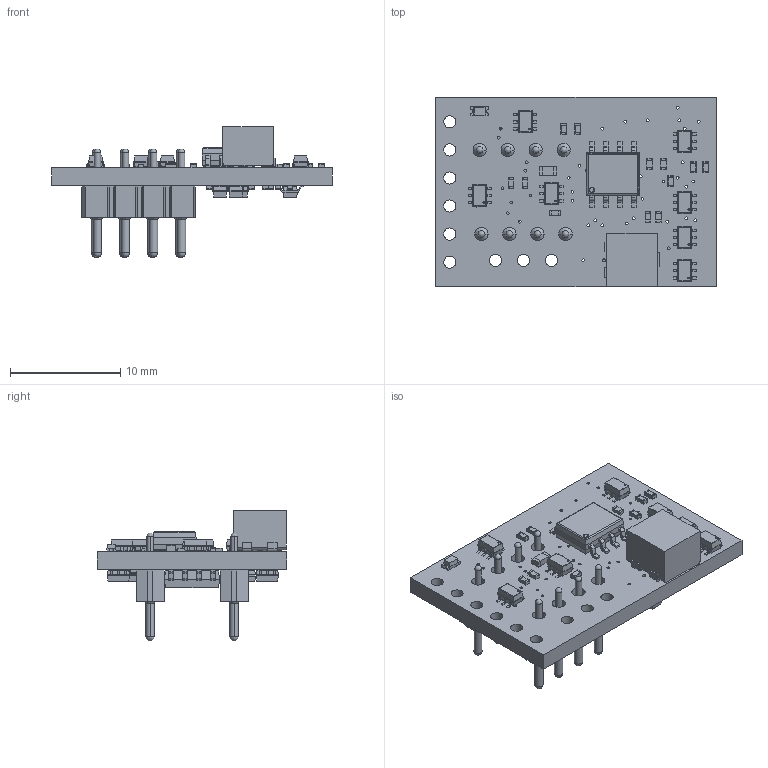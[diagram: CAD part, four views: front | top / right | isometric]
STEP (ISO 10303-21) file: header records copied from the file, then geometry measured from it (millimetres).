
FILE_DESCRIPTION(('for SolidWorks'),'2;1');
FILE_NAME('C:\www\opencart-4.1.0.3\ImagesForSite\3D_models\Bel_amp_H_20260806.step','2026-09-23T20:32:06',('B'),(''), 'Open CASCADE STEP processor 6.6','DipTrace','Unknown');
FILE_SCHEMA(('AUTOMOTIVE_DESIGN { 1 0 10303 214 1 1 1 1 }'));
Length unit declared in the file: millimetre
Products named in the file (18): PCB_Bel_amp_H_20260806; Board_Bel_amp_H_20260806; GRM1555C1H470FA01D; preci-dip_800-10-004-10-002101; MMBF4392LT1G; LSK389A; SP8M31HZGTB; 3224J-1-500E; BC847CDW1T1G; BC857CDW1T1G; ERA-2AEB1212X; MCS04020D1000BE000; ERA-2AEB202X; RN73H1JTTD1210B10; ERA-2AEB4991X; ERA-2AKD100X; ERA-2AEB49R9X; 150060SS75000
Assembly tree (44 placements, depth 2):
  PCB_Bel_amp_H_20260806
    Board_Bel_amp_H_20260806
    GRM1555C1H470FA01D
    preci-dip_800-10-004-10-002101  x2
    MMBF4392LT1G
    LSK389A
    SP8M31HZGTB
    3224J-1-500E
    BC847CDW1T1G  x6
    BC857CDW1T1G  x6
    ERA-2AEB1212X  x2
    MCS04020D1000BE000  x10
    ERA-2AEB202X  x2
    RN73H1JTTD1210B10
    ERA-2AEB4991X  x2
    ERA-2AKD100X  x5
    ERA-2AEB49R9X
    150060SS75000
Bounding box: 25.4 x 17.14 x 11.81 mm (x, y, z)
Volume: 852.6 mm3; surface area: 2043.8 mm2
Topology: 25 solids, 223 shells, 3240 faces, 8057 edges, 5264 vertices
Faces by surface type: plane 2646, cylinder 519, cone 37, sphere 20, torus 17, bspline 1
Full cylindrical faces by diameter (mm): 0.156 x12, 0.163 x1, 0.254 x2, 0.41 x2, 1.1 x9, 1.2 x8
Entity records: 52456 total; most frequent: CARTESIAN_POINT 8075, ORIENTED_EDGE 7694, DIRECTION 7400, EDGE_CURVE 3847, LINE 3338, VECTOR 3338, VERTEX_POINT 2536, AXIS2_PLACEMENT_3D 2031
